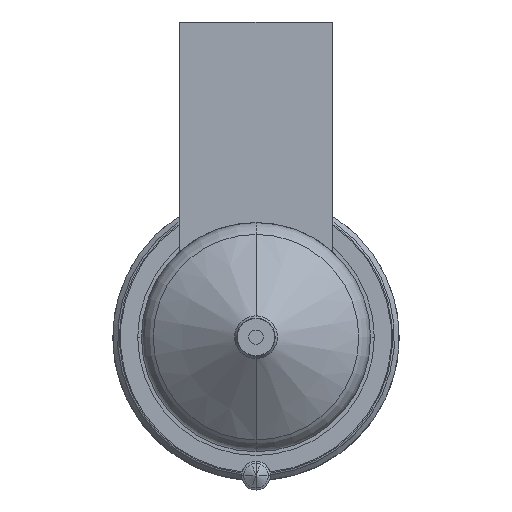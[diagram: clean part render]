
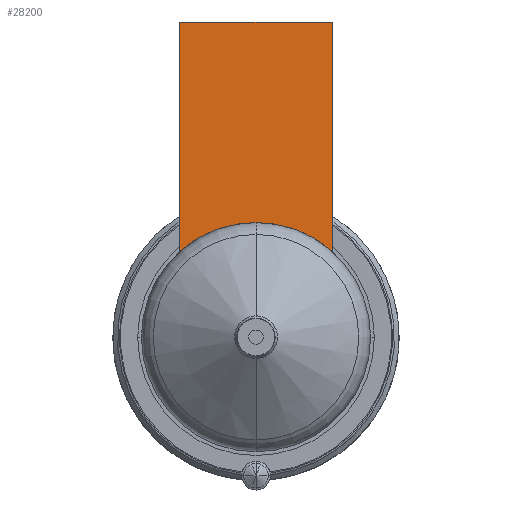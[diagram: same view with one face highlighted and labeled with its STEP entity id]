
A CAD part, front view. The second image highlights one B-rep face of the part: STEP entity #28200.
In plain terms, the highlighted planar face has unit normal (0, -1, 0).
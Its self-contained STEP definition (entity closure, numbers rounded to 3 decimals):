
#27512=DIRECTION('',(0.,0.,-1.));
#27513=VECTOR('',#27512,24.056);
#27514=CARTESIAN_POINT('',(-8.,-56.,33.));
#27515=LINE('',#27514,#27513);
#27552=DIRECTION('',(1.,0.,0.));
#27553=VECTOR('',#27552,16.);
#27554=CARTESIAN_POINT('',(-8.,-56.,33.));
#27555=LINE('',#27554,#27553);
#27559=CARTESIAN_POINT('',(0.,-56.,0.));
#27560=DIRECTION('',(0.,-1.,0.));
#27561=DIRECTION('',(0.667,0.,0.745));
#27562=AXIS2_PLACEMENT_3D('',#27559,#27560,#27561);
#27567=CARTESIAN_POINT('',(0.,-56.,0.));
#27568=DIRECTION('',(0.,-1.,0.));
#27569=DIRECTION('',(0.,0.,1.));
#27570=AXIS2_PLACEMENT_3D('',#27567,#27568,#27569);
#27603=DIRECTION('',(0.,0.,-1.));
#27604=VECTOR('',#27603,24.056);
#27605=CARTESIAN_POINT('',(8.,-56.,33.));
#27606=LINE('',#27605,#27604);
#28064=CARTESIAN_POINT('',(-8.,-56.,33.));
#28065=VERTEX_POINT('',#28064);
#28070=CARTESIAN_POINT('',(8.,-56.,33.));
#28071=VERTEX_POINT('',#28070);
#28074=CARTESIAN_POINT('',(-8.,-56.,8.944));
#28075=VERTEX_POINT('',#28074);
#28078=CARTESIAN_POINT('',(8.,-56.,8.944));
#28079=VERTEX_POINT('',#28078);
#28119=CARTESIAN_POINT('',(0.,-56.,12.));
#28120=VERTEX_POINT('',#28119);
#28185=CARTESIAN_POINT('',(-8.,-56.,33.));
#28186=DIRECTION('',(0.,-1.,0.));
#28187=DIRECTION('',(0.,0.,-1.));
#28188=AXIS2_PLACEMENT_3D('',#28185,#28186,#28187);
#28189=PLANE('',#28188);
#28190=ORIENTED_EDGE('',*,*,#28133,.F.);
#28192=ORIENTED_EDGE('',*,*,#28191,.T.);
#28194=ORIENTED_EDGE('',*,*,#28193,.T.);
#28196=ORIENTED_EDGE('',*,*,#28195,.T.);
#28197=ORIENTED_EDGE('',*,*,#28165,.T.);
#28198=EDGE_LOOP('',(#28190,#28192,#28194,#28196,#28197));
#28199=FACE_OUTER_BOUND('',#28198,.F.);
#28200=ADVANCED_FACE('',(#28199),#28189,.T.);
#27563=CIRCLE('',#27562,12.);
#27571=CIRCLE('',#27570,12.);
#28133=EDGE_CURVE('',#28065,#28075,#27515,.T.);
#28165=EDGE_CURVE('',#28120,#28075,#27571,.T.);
#28191=EDGE_CURVE('',#28065,#28071,#27555,.T.);
#28193=EDGE_CURVE('',#28071,#28079,#27606,.T.);
#28195=EDGE_CURVE('',#28079,#28120,#27563,.T.);
